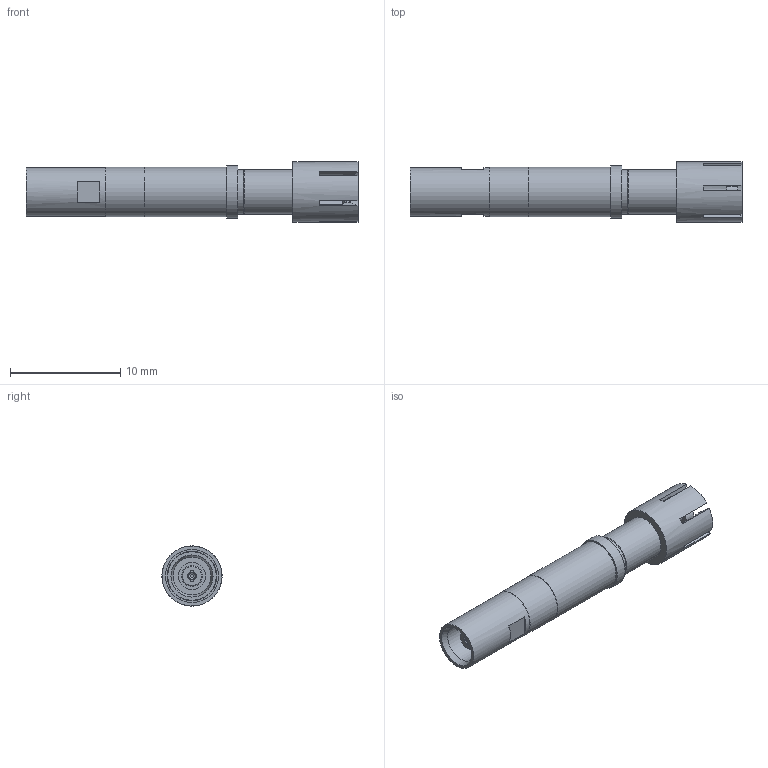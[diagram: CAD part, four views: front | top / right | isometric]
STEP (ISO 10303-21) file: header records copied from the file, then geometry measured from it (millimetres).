
FILE_DESCRIPTION(/* description */ (''),/* implementation_level */ '2;1');
FILE_NAME(/* name */ 'RK-50013440FS-6GS-客户.stp',/* time_stamp */ '2025-12-05T15:50:19+08:00',/* author */ (''),/* organization */ (''),/* preprocessor_version */ 'ST-DEVELOPER v18.102',/* originating_system */ 'SIEMENS PLM Software NX2206.1700',/* authorisation */ '');
FILE_SCHEMA (('AP203_CONFIGURATION_CONTROLLED_3D_DESIGN_OF_MECHANICAL_PARTS_AND_ASSEMBLIES_MIM_LF { 1 0 10303 403 2 1 2}'));
Length unit declared in the file: millimetre
Products named in the file (1): RK-50013440FS-6GS_objects
Bounding box: 30.1 x 5.45 x 5.45 mm (x, y, z)
Volume: 386 mm3; surface area: 756.5 mm2
Topology: 1 solids, 5 shells, 143 faces, 347 edges, 229 vertices
Faces by surface type: plane 62, cylinder 35, cone 29, torus 12, bspline 5
Full cylindrical faces by diameter (mm): 0.52 x1, 0.6 x1, 0.75 x1, 0.85 x1, 0.95 x1, 1.5 x2, 1.72 x1, 1.9 x1, 2.4 x1, 2.45 x2, 2.5 x1, 3.3 x1, 3.42 x1, 3.7 x1, 4 x1, 4.4 x1, 4.46 x1, 4.5 x1, 4.75 x1, 4.8 x1, 5.45 x1
Entity records: 6419 total; most frequent: CARTESIAN_POINT 3246, DIRECTION 621, ORIENTED_EDGE 598, EDGE_CURVE 299, AXIS2_PLACEMENT_3D 267, VERTEX_POINT 220, EDGE_LOOP 204, ADVANCED_FACE 142
